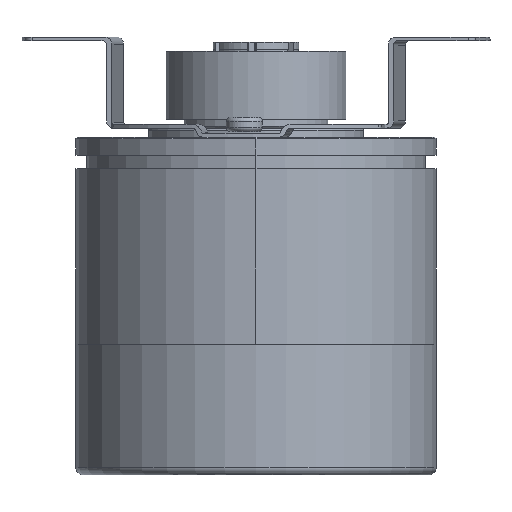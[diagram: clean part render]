
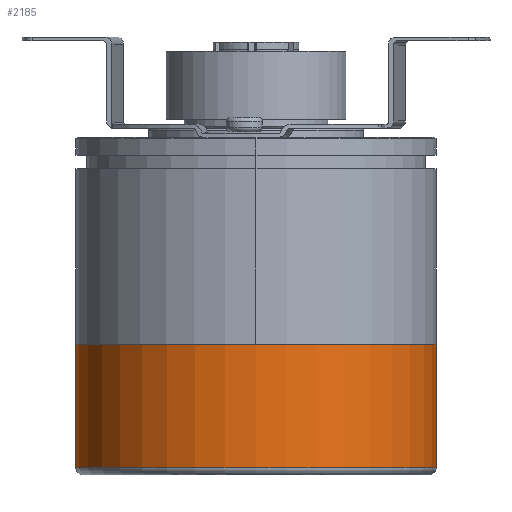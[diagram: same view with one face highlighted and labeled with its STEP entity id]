
A CAD part, left-side view. The second image highlights one B-rep face of the part: STEP entity #2185.
In plain terms, the highlighted cylindrical face has radius 20 mm (diameter 40 mm), a partial arc.
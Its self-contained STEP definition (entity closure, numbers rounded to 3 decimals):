
#1257=CYLINDRICAL_SURFACE('',#11115,20.);
#1692=FACE_OUTER_BOUND('',#3031,.T.);
#2185=ADVANCED_FACE('',(#1692),#1257,.T.);
#3031=EDGE_LOOP('',(#6579,#6580,#6581,#6582));
#3687=CIRCLE('',#11108,20.);
#3690=CIRCLE('',#11113,20.);
#6579=ORIENTED_EDGE('',*,*,#9165,.T.);
#6580=ORIENTED_EDGE('',*,*,#9160,.F.);
#6581=ORIENTED_EDGE('',*,*,#9164,.F.);
#6582=ORIENTED_EDGE('',*,*,#9169,.T.);
#7689=VERTEX_POINT('',#24651);
#7690=VERTEX_POINT('',#24652);
#7691=VERTEX_POINT('',#24666);
#7692=VERTEX_POINT('',#24669);
#9160=EDGE_CURVE('',#7689,#7690,#3687,.T.);
#9164=EDGE_CURVE('',#7691,#7689,#9593,.T.);
#9165=EDGE_CURVE('',#7692,#7690,#9594,.T.);
#9169=EDGE_CURVE('',#7691,#7692,#3690,.T.);
#9593=LINE('',#24667,#9993);
#9594=LINE('',#24668,#9994);
#9993=VECTOR('',#13717,1.);
#9994=VECTOR('',#13718,1.);
#11108=AXIS2_PLACEMENT_3D('',#24650,#13711,#13712);
#11113=AXIS2_PLACEMENT_3D('',#24697,#13725,#13726);
#11115=AXIS2_PLACEMENT_3D('',#24699,#13729,#13730);
#13711=DIRECTION('',(0.,0.,1.));
#13712=DIRECTION('',(0.974,0.228,0.));
#13717=DIRECTION('',(0.,0.,1.));
#13718=DIRECTION('',(0.,0.,1.));
#13725=DIRECTION('',(0.,0.,1.));
#13726=DIRECTION('',(0.974,0.228,0.));
#13729=DIRECTION('',(0.,0.,1.));
#13730=DIRECTION('',(0.087,0.996,0.));
#24650=CARTESIAN_POINT('',(20.,20.,-30.));
#24651=CARTESIAN_POINT('',(39.472,24.565,-30.));
#24652=CARTESIAN_POINT('',(38.383,12.123,-30.));
#24666=CARTESIAN_POINT('',(39.472,24.565,-43.7));
#24667=CARTESIAN_POINT('',(39.472,24.565,-43.7));
#24668=CARTESIAN_POINT('',(38.383,12.123,-43.7));
#24669=CARTESIAN_POINT('',(38.383,12.123,-43.7));
#24697=CARTESIAN_POINT('',(20.,20.,-43.7));
#24699=CARTESIAN_POINT('',(20.,20.,-44.5));
